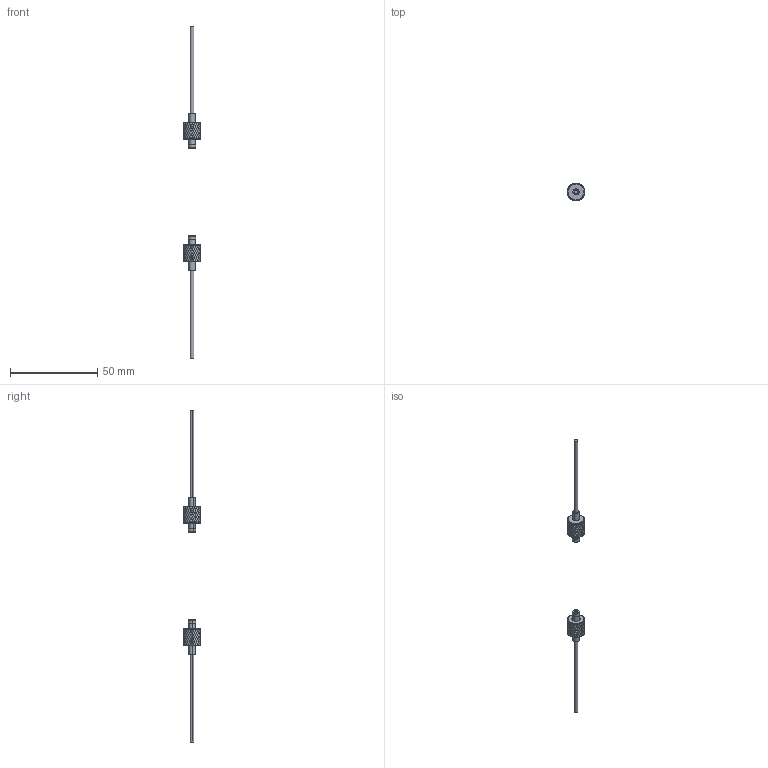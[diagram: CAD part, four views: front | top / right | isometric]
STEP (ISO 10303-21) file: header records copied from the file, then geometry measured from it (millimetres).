
FILE_DESCRIPTION (( 'STEP AP214' ), '1' );
FILE_NAME ('FU-VA01.STEP', '2020-10-31T06:53:34', ( '' ), ( '' ), 'SwSTEP 2.0', 'SolidWorks 2018', '' );
FILE_SCHEMA (( 'AUTOMOTIVE_DESIGN' ));
Length unit declared in the file: millimetre
Products named in the file (1): FU-VA01
Bounding box: 10 x 10 x 190 mm (x, y, z)
Volume: 2008.4 mm3; surface area: 2746.3 mm2
Topology: 4 solids, 4 shells, 2068 faces, 4462 edges, 2410 vertices
Faces by surface type: bspline 1542, cylinder 496, plane 18, cone 12
Entity records: 73881 total; most frequent: CARTESIAN_POINT 47333, ORIENTED_EDGE 8924, EDGE_CURVE 4462, VERTEX_POINT 2410, EDGE_LOOP 2080, ADVANCED_FACE 2068, FACE_OUTER_BOUND 2068, DIRECTION 1652
